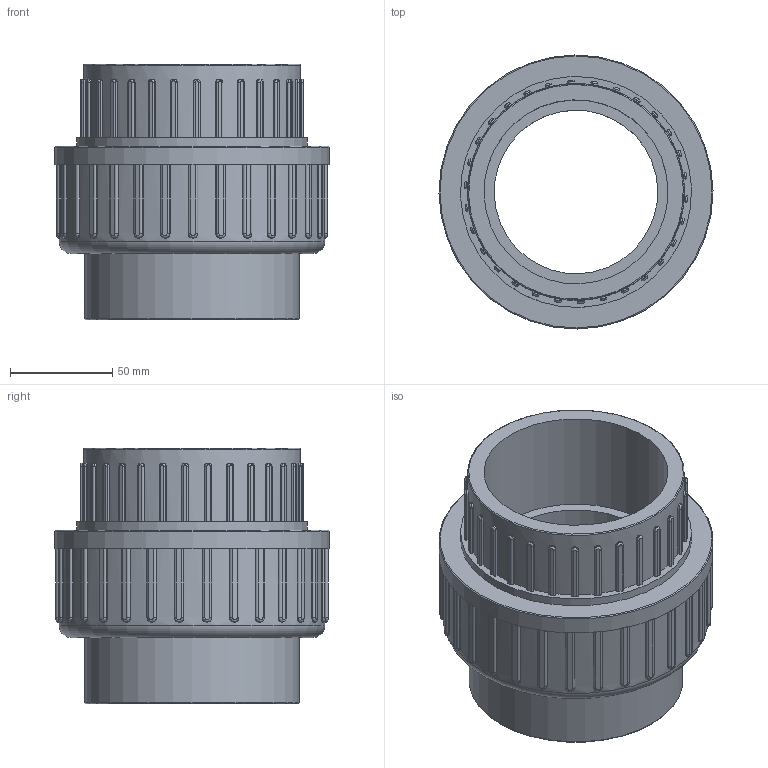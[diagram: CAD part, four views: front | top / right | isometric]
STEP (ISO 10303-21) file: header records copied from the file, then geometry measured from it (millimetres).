
FILE_DESCRIPTION(/* description */ (''),/* implementation_level */ '2;1');
FILE_NAME(/* name */ 'C:\Users\POLYPIPE\Desktop\DATASET INVENTOR\LIBRERIA EFFAST\3D_RACCORDI\RDR\3D_RDRBOD\3D_RDRBOD0900.stp',/* time_stamp */ '2018-01-22T10:25:39+01:00',/* author */ ('POLYPIPE'),/* organization */ (''),/* preprocessor_version */ 'ST-DEVELOPER v16.1',/* originating_system */ 'Autodesk Inventor 2016',/* authorisation */ '');
FILE_SCHEMA (('CONFIG_CONTROL_DESIGN'));
Length unit declared in the file: centimetre
Products named in the file (1): 3D_RDRBOD
Bounding box: 134 x 134 x 125 mm (x, y, z)
Volume: 580648.9 mm3; surface area: 117928.7 mm2
Topology: 1 solids, 2 shells, 448 faces, 1245 edges, 809 vertices
Faces by surface type: plane 192, cylinder 192, bspline 60, torus 4
Full cylindrical faces by diameter (mm): 80 x1, 85 x1, 90 x2, 104.7 x1, 105 x1, 106 x1, 110 x1, 110.8 x1, 113 x1, 130 x1, 134 x1
Entity records: 16209 total; most frequent: CARTESIAN_POINT 4401, ORIENTED_EDGE 2452, DIRECTION 2330, EDGE_CURVE 1226, AXIS2_PLACEMENT_3D 835, VERTEX_POINT 806, LINE 660, VECTOR 660
